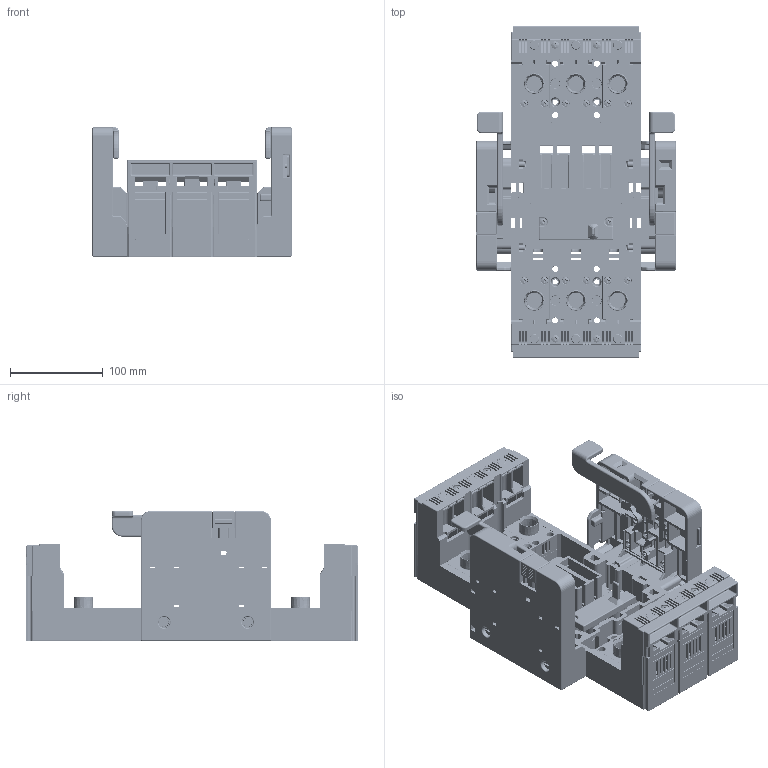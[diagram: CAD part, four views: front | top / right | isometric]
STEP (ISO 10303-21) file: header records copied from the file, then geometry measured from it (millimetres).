
FILE_DESCRIPTION (( 'STEP AP214' ), '1' );
FILE_NAME ('ZV-BH-0630-300.step', '2011-08-24T07:11:16', ( 'Radek Veselý' ), ( 'Siemens and Partners' ), 'SwSTEP 2.0', 'SolidWorks 2006303', '' );
FILE_SCHEMA (( 'AUTOMOTIVE_DESIGN' ));
Length unit declared in the file: millimetre
Products named in the file (1): ZV-BH-0630-300
Bounding box: 215 x 358 x 140 mm (x, y, z)
Volume: 1498726.6 mm3; surface area: 915170.1 mm2
Topology: 48 solids, 48 shells, 9768 faces, 25991 edges, 16374 vertices
Faces by surface type: plane 6016, cylinder 2782, torus 332, cone 236, sphere 222, bspline 180
Entity records: 412905 total; most frequent: CARTESIAN_POINT 62973, ORIENTED_EDGE 51478, DIRECTION 49365, EDGE_CURVE 25739, VECTOR 18405, LINE 18405, VERTEX_POINT 16374, AXIS2_PLACEMENT_3D 15480
